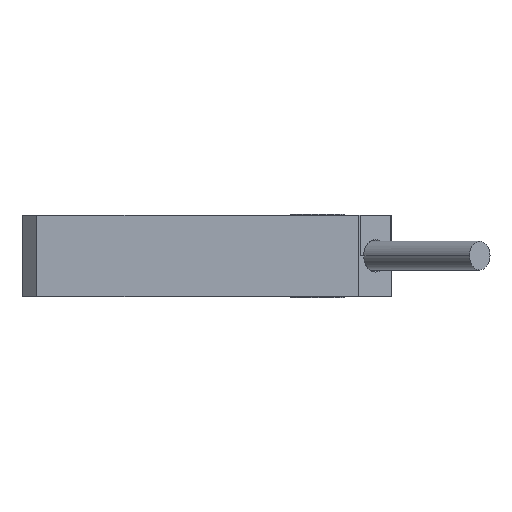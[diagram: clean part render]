
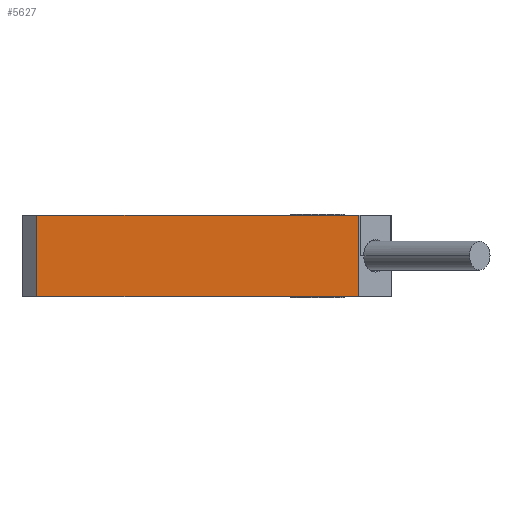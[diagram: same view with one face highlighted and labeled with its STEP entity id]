
A CAD part, top view. The second image highlights one B-rep face of the part: STEP entity #5627.
In plain terms, the highlighted planar face has unit normal (0, 0, 1).
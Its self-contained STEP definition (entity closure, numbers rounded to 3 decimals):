
#16 = LINE ( 'NONE', #4759, #4169 ) ;
#74 = LINE ( 'NONE', #7222, #5318 ) ;
#118 = ORIENTED_EDGE ( 'NONE', *, *, #5054, .F. ) ;
#449 = DIRECTION ( 'NONE',  ( 0., 0., -1. ) ) ;
#891 = DIRECTION ( 'NONE',  ( 0., 1., 0. ) ) ;
#895 = ORIENTED_EDGE ( 'NONE', *, *, #5440, .T. ) ;
#1230 = LINE ( 'NONE', #5502, #6437 ) ;
#1234 = AXIS2_PLACEMENT_3D ( 'NONE', #1641, #449, #7559 ) ;
#1575 = CARTESIAN_POINT ( 'NONE',  ( -45.488, 22.067, 20. ) ) ;
#1641 = CARTESIAN_POINT ( 'NONE',  ( -45.488, 22.067, 20. ) ) ;
#1893 = DIRECTION ( 'NONE',  ( 1., 0., 0. ) ) ;
#1972 = VERTEX_POINT ( 'NONE', #2033 ) ;
#1995 = VERTEX_POINT ( 'NONE', #7477 ) ;
#2033 = CARTESIAN_POINT ( 'NONE',  ( -45.488, 11.067, 20. ) ) ;
#2081 = CARTESIAN_POINT ( 'NONE',  ( -88.988, 22.067, 20. ) ) ;
#2156 = EDGE_CURVE ( 'NONE', #1995, #5935, #16, .T. ) ;
#2592 = ORIENTED_EDGE ( 'NONE', *, *, #2156, .F. ) ;
#2888 = PLANE ( 'NONE',  #1234 ) ;
#3144 = EDGE_CURVE ( 'NONE', #1972, #4144, #7412, .T. ) ;
#3492 = CARTESIAN_POINT ( 'NONE',  ( -45.488, 22.067, 20. ) ) ;
#3598 = DIRECTION ( 'NONE',  ( 1., 0., 0. ) ) ;
#4144 = VERTEX_POINT ( 'NONE', #3492 ) ;
#4169 = VECTOR ( 'NONE', #7116, 1000. ) ;
#4688 = FACE_OUTER_BOUND ( 'NONE', #7503, .T. ) ;
#4759 = CARTESIAN_POINT ( 'NONE',  ( -88.988, 22.067, 20. ) ) ;
#5054 = EDGE_CURVE ( 'NONE', #5935, #4144, #74, .T. ) ;
#5318 = VECTOR ( 'NONE', #1893, 1000. ) ;
#5420 = VECTOR ( 'NONE', #891, 1000. ) ;
#5440 = EDGE_CURVE ( 'NONE', #1995, #1972, #1230, .T. ) ;
#5502 = CARTESIAN_POINT ( 'NONE',  ( -43.488, 11.067, 20. ) ) ;
#5627 = ADVANCED_FACE ( 'NONE', ( #4688 ), #2888, .F. ) ;
#5935 = VERTEX_POINT ( 'NONE', #2081 ) ;
#6437 = VECTOR ( 'NONE', #3598, 1000. ) ;
#6695 = ORIENTED_EDGE ( 'NONE', *, *, #3144, .T. ) ;
#7116 = DIRECTION ( 'NONE',  ( 0., 1., 0. ) ) ;
#7222 = CARTESIAN_POINT ( 'NONE',  ( -45.488, 22.067, 20. ) ) ;
#7412 = LINE ( 'NONE', #1575, #5420 ) ;
#7477 = CARTESIAN_POINT ( 'NONE',  ( -88.988, 11.067, 20. ) ) ;
#7503 = EDGE_LOOP ( 'NONE', ( #6695, #118, #2592, #895 ) ) ;
#7559 = DIRECTION ( 'NONE',  ( -1., 0., 0. ) ) ;
